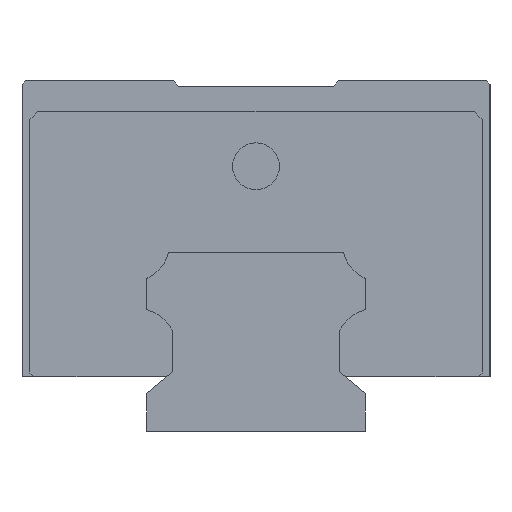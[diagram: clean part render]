
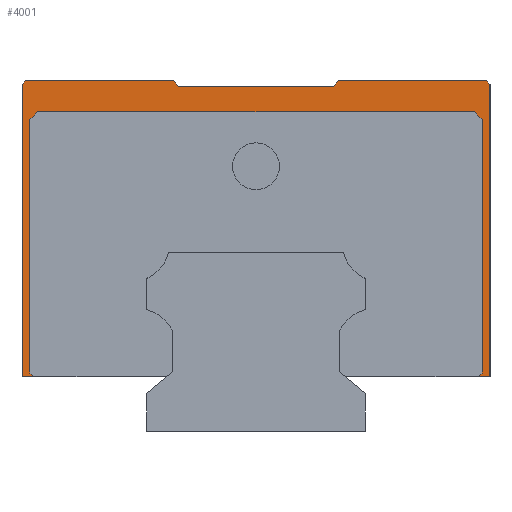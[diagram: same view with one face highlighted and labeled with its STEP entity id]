
A CAD part, left-side view. The second image highlights one B-rep face of the part: STEP entity #4001.
In plain terms, the highlighted planar face has unit normal (-1, 0, 0).
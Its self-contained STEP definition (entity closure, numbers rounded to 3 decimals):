
#25 = ORIENTED_EDGE ( 'NONE', *, *, #2557, .T. ) ;
#167 = VECTOR ( 'NONE', #4097, 1000. ) ;
#245 = DIRECTION ( 'NONE',  ( 0., 1., 0. ) ) ;
#301 = CARTESIAN_POINT ( 'NONE',  ( -52.5, -30., 44.5 ) ) ;
#363 = EDGE_CURVE ( 'NONE', #455, #5126, #3888, .T. ) ;
#379 = VERTEX_POINT ( 'NONE', #5730 ) ;
#417 = CARTESIAN_POINT ( 'NONE',  ( -52.5, -10., 44.25 ) ) ;
#444 = VECTOR ( 'NONE', #1709, 1000. ) ;
#446 = DIRECTION ( 'NONE',  ( 0., 0., 1. ) ) ;
#455 = VERTEX_POINT ( 'NONE', #3113 ) ;
#550 = ORIENTED_EDGE ( 'NONE', *, *, #3737, .T. ) ;
#567 = VERTEX_POINT ( 'NONE', #5027 ) ;
#606 = DIRECTION ( 'NONE',  ( 0., 0.707, -0.707 ) ) ;
#692 = CARTESIAN_POINT ( 'NONE',  ( -52.5, 30., 45. ) ) ;
#713 = LINE ( 'NONE', #4774, #1758 ) ;
#728 = CARTESIAN_POINT ( 'NONE',  ( -52.5, 10.629, 45. ) ) ;
#729 = ORIENTED_EDGE ( 'NONE', *, *, #5390, .F. ) ;
#820 = EDGE_CURVE ( 'NONE', #4387, #2745, #3135, .T. ) ;
#880 = VECTOR ( 'NONE', #1136, 1000. ) ;
#916 = VERTEX_POINT ( 'NONE', #4928 ) ;
#1057 = VECTOR ( 'NONE', #5805, 1000. ) ;
#1112 = VECTOR ( 'NONE', #5277, 1000. ) ;
#1136 = DIRECTION ( 'NONE',  ( 0., -1., 0. ) ) ;
#1212 = EDGE_CURVE ( 'NONE', #2770, #3107, #1326, .T. ) ;
#1245 = CARTESIAN_POINT ( 'NONE',  ( -52.5, -10.629, 45. ) ) ;
#1252 = VECTOR ( 'NONE', #4368, 1000. ) ;
#1326 = LINE ( 'NONE', #1679, #444 ) ;
#1362 = EDGE_CURVE ( 'NONE', #1578, #4057, #2352, .T. ) ;
#1412 = ORIENTED_EDGE ( 'NONE', *, *, #1896, .T. ) ;
#1418 = VERTEX_POINT ( 'NONE', #1840 ) ;
#1438 = VECTOR ( 'NONE', #606, 1000. ) ;
#1527 = ORIENTED_EDGE ( 'NONE', *, *, #4389, .T. ) ;
#1572 = LINE ( 'NONE', #5171, #880 ) ;
#1576 = ORIENTED_EDGE ( 'NONE', *, *, #3296, .T. ) ;
#1578 = VERTEX_POINT ( 'NONE', #301 ) ;
#1679 = CARTESIAN_POINT ( 'NONE',  ( -52.5, 29.5, 45. ) ) ;
#1709 = DIRECTION ( 'NONE',  ( 0., 0.707, -0.707 ) ) ;
#1718 = CARTESIAN_POINT ( 'NONE',  ( -52.5, -10.629, 45. ) ) ;
#1743 = DIRECTION ( 'NONE',  ( 0., 1., 0. ) ) ;
#1758 = VECTOR ( 'NONE', #4864, 1000. ) ;
#1840 = CARTESIAN_POINT ( 'NONE',  ( -52.5, 10., 44.25 ) ) ;
#1881 = EDGE_CURVE ( 'NONE', #567, #5126, #4645, .T. ) ;
#1896 = EDGE_CURVE ( 'NONE', #379, #3199, #1572, .T. ) ;
#1969 = VERTEX_POINT ( 'NONE', #4062 ) ;
#2014 = ORIENTED_EDGE ( 'NONE', *, *, #2512, .F. ) ;
#2056 = LINE ( 'NONE', #5692, #5733 ) ;
#2130 = AXIS2_PLACEMENT_3D ( 'NONE', #5517, #5048, #4632 ) ;
#2274 = CARTESIAN_POINT ( 'NONE',  ( -52.5, -28.5, 7. ) ) ;
#2336 = ORIENTED_EDGE ( 'NONE', *, *, #1362, .T. ) ;
#2352 = LINE ( 'NONE', #3745, #167 ) ;
#2357 = CARTESIAN_POINT ( 'NONE',  ( -52.5, 30., 7. ) ) ;
#2455 = CARTESIAN_POINT ( 'NONE',  ( -52.5, 28.5, 7. ) ) ;
#2462 = CARTESIAN_POINT ( 'NONE',  ( -52.5, -29., 7.5 ) ) ;
#2512 = EDGE_CURVE ( 'NONE', #916, #1969, #5186, .T. ) ;
#2536 = CARTESIAN_POINT ( 'NONE',  ( -52.5, 11.769, 7. ) ) ;
#2557 = EDGE_CURVE ( 'NONE', #3458, #379, #4743, .T. ) ;
#2582 = VECTOR ( 'NONE', #4637, 1000. ) ;
#2644 = ORIENTED_EDGE ( 'NONE', *, *, #363, .F. ) ;
#2745 = VERTEX_POINT ( 'NONE', #417 ) ;
#2770 = VERTEX_POINT ( 'NONE', #3829 ) ;
#2786 = VERTEX_POINT ( 'NONE', #728 ) ;
#2787 = ORIENTED_EDGE ( 'NONE', *, *, #3738, .F. ) ;
#2944 = VECTOR ( 'NONE', #5665, 1000. ) ;
#2958 = CARTESIAN_POINT ( 'NONE',  ( -52.5, -30., 45. ) ) ;
#2968 = DIRECTION ( 'NONE',  ( 0., 0.707, 0.707 ) ) ;
#3069 = VERTEX_POINT ( 'NONE', #5701 ) ;
#3107 = VERTEX_POINT ( 'NONE', #3643 ) ;
#3113 = CARTESIAN_POINT ( 'NONE',  ( -52.5, -30., 7. ) ) ;
#3135 = LINE ( 'NONE', #1718, #1057 ) ;
#3160 = EDGE_CURVE ( 'NONE', #1418, #2786, #4490, .T. ) ;
#3199 = VERTEX_POINT ( 'NONE', #5607 ) ;
#3220 = CARTESIAN_POINT ( 'NONE',  ( -52.5, -29.5, 45. ) ) ;
#3282 = LINE ( 'NONE', #2455, #4919 ) ;
#3296 = EDGE_CURVE ( 'NONE', #916, #3391, #3282, .T. ) ;
#3297 = EDGE_CURVE ( 'NONE', #3199, #3069, #5523, .T. ) ;
#3391 = VERTEX_POINT ( 'NONE', #5776 ) ;
#3408 = CARTESIAN_POINT ( 'NONE',  ( -52.5, -28., 41. ) ) ;
#3429 = VECTOR ( 'NONE', #4605, 1000. ) ;
#3458 = VERTEX_POINT ( 'NONE', #4073 ) ;
#3466 = ORIENTED_EDGE ( 'NONE', *, *, #3297, .T. ) ;
#3476 = DIRECTION ( 'NONE',  ( 0., 1., 0. ) ) ;
#3489 = LINE ( 'NONE', #4480, #4045 ) ;
#3560 = VECTOR ( 'NONE', #3843, 1000. ) ;
#3643 = CARTESIAN_POINT ( 'NONE',  ( -52.5, 30., 44.5 ) ) ;
#3666 = PLANE ( 'NONE',  #2130 ) ;
#3686 = EDGE_CURVE ( 'NONE', #1969, #3107, #4286, .T. ) ;
#3737 = EDGE_CURVE ( 'NONE', #3069, #567, #713, .T. ) ;
#3738 = EDGE_CURVE ( 'NONE', #1578, #455, #5770, .T. ) ;
#3745 = CARTESIAN_POINT ( 'NONE',  ( -52.5, -30., 44.5 ) ) ;
#3774 = ORIENTED_EDGE ( 'NONE', *, *, #5227, .T. ) ;
#3798 = VECTOR ( 'NONE', #245, 1000. ) ;
#3829 = CARTESIAN_POINT ( 'NONE',  ( -52.5, 29.5, 45. ) ) ;
#3839 = CARTESIAN_POINT ( 'NONE',  ( -52.5, 29., 40. ) ) ;
#3843 = DIRECTION ( 'NONE',  ( 0., 0., 1. ) ) ;
#3847 = LINE ( 'NONE', #692, #2944 ) ;
#3873 = DIRECTION ( 'NONE',  ( 0., -1., 0. ) ) ;
#3888 = LINE ( 'NONE', #5677, #5279 ) ;
#3977 = ORIENTED_EDGE ( 'NONE', *, *, #820, .T. ) ;
#4001 = ADVANCED_FACE ( 'NONE', ( #5632 ), #3666, .F. ) ;
#4045 = VECTOR ( 'NONE', #446, 1000. ) ;
#4057 = VERTEX_POINT ( 'NONE', #3220 ) ;
#4062 = CARTESIAN_POINT ( 'NONE',  ( -52.5, 30., 7. ) ) ;
#4073 = CARTESIAN_POINT ( 'NONE',  ( -52.5, 29., 40. ) ) ;
#4078 = LINE ( 'NONE', #5779, #5668 ) ;
#4097 = DIRECTION ( 'NONE',  ( 0., 0.707, 0.707 ) ) ;
#4212 = EDGE_CURVE ( 'NONE', #4387, #4057, #2056, .T. ) ;
#4286 = LINE ( 'NONE', #2357, #3560 ) ;
#4323 = ORIENTED_EDGE ( 'NONE', *, *, #4212, .F. ) ;
#4368 = DIRECTION ( 'NONE',  ( 0., -0.707, 0.707 ) ) ;
#4387 = VERTEX_POINT ( 'NONE', #1245 ) ;
#4389 = EDGE_CURVE ( 'NONE', #3391, #3458, #3489, .T. ) ;
#4480 = CARTESIAN_POINT ( 'NONE',  ( -52.5, 29., 7.5 ) ) ;
#4490 = LINE ( 'NONE', #5495, #3429 ) ;
#4605 = DIRECTION ( 'NONE',  ( 0., 0.643, 0.766 ) ) ;
#4632 = DIRECTION ( 'NONE',  ( 0., 1., 0. ) ) ;
#4637 = DIRECTION ( 'NONE',  ( 0., -0.707, -0.707 ) ) ;
#4645 = LINE ( 'NONE', #2462, #1438 ) ;
#4743 = LINE ( 'NONE', #3839, #1252 ) ;
#4774 = CARTESIAN_POINT ( 'NONE',  ( -52.5, -29., 40. ) ) ;
#4864 = DIRECTION ( 'NONE',  ( 0., 0., -1. ) ) ;
#4880 = ORIENTED_EDGE ( 'NONE', *, *, #3160, .T. ) ;
#4919 = VECTOR ( 'NONE', #2968, 1000. ) ;
#4928 = CARTESIAN_POINT ( 'NONE',  ( -52.5, 28.5, 7. ) ) ;
#5027 = CARTESIAN_POINT ( 'NONE',  ( -52.5, -29., 7.5 ) ) ;
#5048 = DIRECTION ( 'NONE',  ( 1., 0., 0. ) ) ;
#5126 = VERTEX_POINT ( 'NONE', #2274 ) ;
#5139 = EDGE_LOOP ( 'NONE', ( #2014, #1576, #1527, #25, #1412, #3466, #550, #5439, #2644, #2787, #2336, #4323, #3977, #3774, #4880, #729, #5305, #5536 ) ) ;
#5171 = CARTESIAN_POINT ( 'NONE',  ( -52.5, 28., 41. ) ) ;
#5186 = LINE ( 'NONE', #2536, #3798 ) ;
#5227 = EDGE_CURVE ( 'NONE', #2745, #1418, #4078, .T. ) ;
#5277 = DIRECTION ( 'NONE',  ( 0., 0., -1. ) ) ;
#5279 = VECTOR ( 'NONE', #3476, 1000. ) ;
#5305 = ORIENTED_EDGE ( 'NONE', *, *, #1212, .T. ) ;
#5390 = EDGE_CURVE ( 'NONE', #2770, #2786, #3847, .T. ) ;
#5439 = ORIENTED_EDGE ( 'NONE', *, *, #1881, .T. ) ;
#5495 = CARTESIAN_POINT ( 'NONE',  ( -52.5, 10., 44.25 ) ) ;
#5517 = CARTESIAN_POINT ( 'NONE',  ( -52.5, -30., 45. ) ) ;
#5523 = LINE ( 'NONE', #3408, #2582 ) ;
#5536 = ORIENTED_EDGE ( 'NONE', *, *, #3686, .F. ) ;
#5607 = CARTESIAN_POINT ( 'NONE',  ( -52.5, -28., 41. ) ) ;
#5632 = FACE_OUTER_BOUND ( 'NONE', #5139, .T. ) ;
#5665 = DIRECTION ( 'NONE',  ( 0., -1., 0. ) ) ;
#5668 = VECTOR ( 'NONE', #1743, 1000. ) ;
#5677 = CARTESIAN_POINT ( 'NONE',  ( -52.5, -30., 7. ) ) ;
#5692 = CARTESIAN_POINT ( 'NONE',  ( -52.5, 30., 45. ) ) ;
#5701 = CARTESIAN_POINT ( 'NONE',  ( -52.5, -29., 40. ) ) ;
#5730 = CARTESIAN_POINT ( 'NONE',  ( -52.5, 28., 41. ) ) ;
#5733 = VECTOR ( 'NONE', #3873, 1000. ) ;
#5770 = LINE ( 'NONE', #2958, #1112 ) ;
#5776 = CARTESIAN_POINT ( 'NONE',  ( -52.5, 29., 7.5 ) ) ;
#5779 = CARTESIAN_POINT ( 'NONE',  ( -52.5, -10., 44.25 ) ) ;
#5805 = DIRECTION ( 'NONE',  ( 0., 0.643, -0.766 ) ) ;
